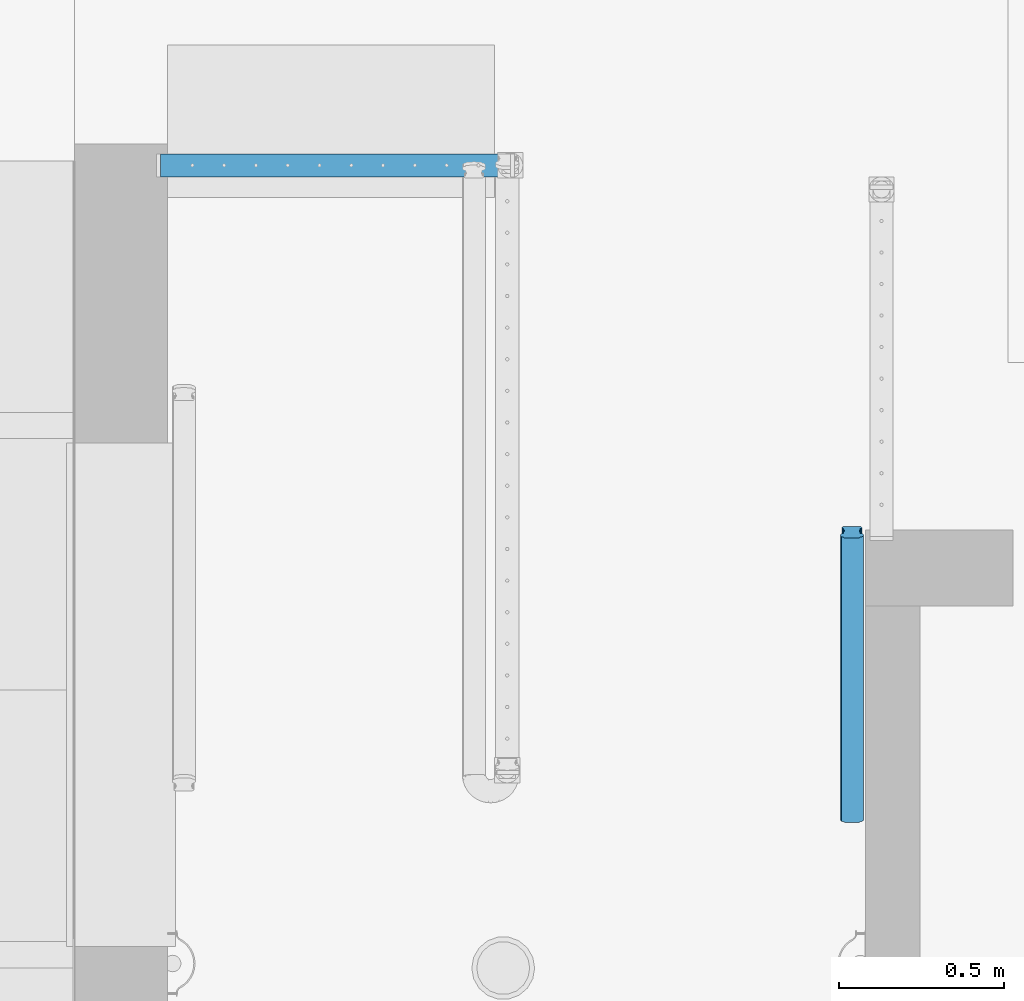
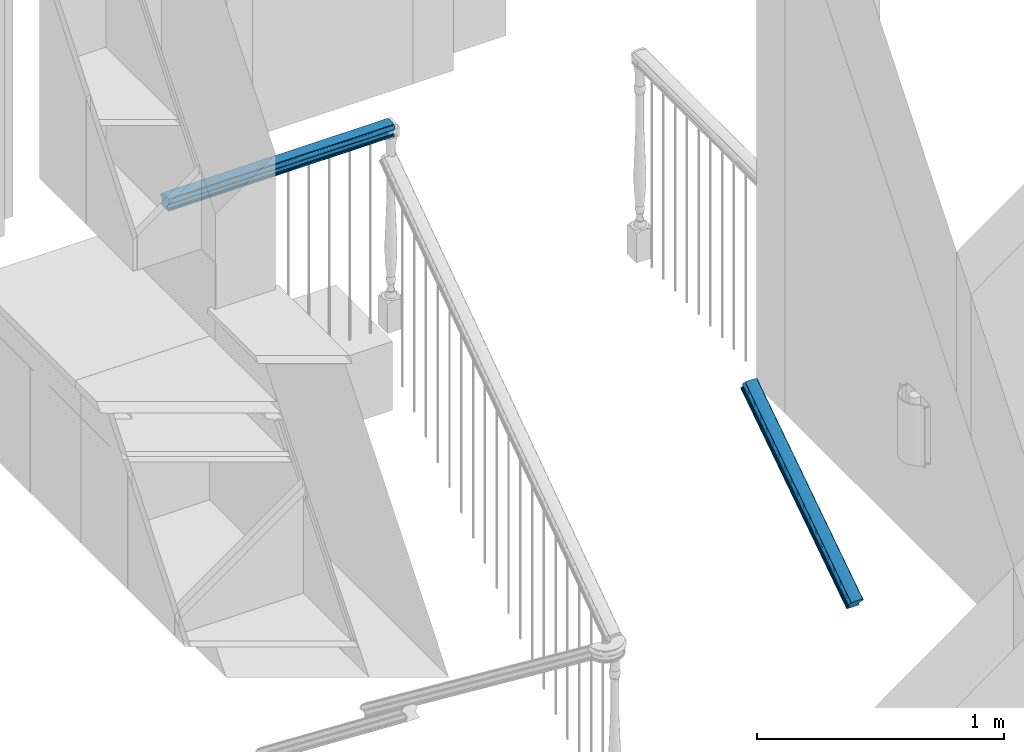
# One storey, part 17 of 77: 2 building element parts, 2 elements without a shape of their own.
"""IFC2X3 building model written with IfcOpenShell, lengths in inches."""

from ifc_helpers import new_model, entity, si_unit, converted_unit, derived_unit, money_unit, direction, frame, origin_with_axes, place, context, subcontext, project, spatial, faceted_brep, material, type_object, element, aggregate, save


model = new_model("IFC2X3")

# Units and contexts
model_context = context("Model", 3, precision=0.000393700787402, world=origin_with_axes(), true_north=direction((0.0, 1.0)))
body_context = subcontext(model_context, "Body", "Model", "MODEL_VIEW")
ifc_project = project(units=[converted_unit("LENGTHUNIT", "INCH", entity("IfcPositiveLengthMeasure", 0.0254), si_unit("LENGTHUNIT", "METRE"), dimensions=[1, 0, 0, 0, 0, 0, 0]), converted_unit("AREAUNIT", "SQUARE_FOOT", entity("IfcPositiveLengthMeasure", 0.09290304), si_unit("AREAUNIT", "SQUARE_METRE"), dimensions=[2, 0, 0, 0, 0, 0, 0]), si_unit("PLANEANGLEUNIT", "RADIAN"), si_unit("SOLIDANGLEUNIT", "STERADIAN"), money_unit("USD"), converted_unit("TIMEUNIT", "Year", entity("IfcTimeMeasure", 31556926.0), si_unit("TIMEUNIT", "SECOND"), dimensions=[0, 0, 1, 0, 0, 0, 0]), si_unit("MASSUNIT", "GRAM", prefix="KILO"), si_unit("THERMODYNAMICTEMPERATUREUNIT", "DEGREE_CELSIUS"), si_unit("LUMINOUSINTENSITYUNIT", "LUMEN"), si_unit("ENERGYUNIT", "JOULE", prefix="MEGA"), derived_unit("THERMALCONDUCTANCEUNIT", [(si_unit("POWERUNIT", "WATT"), 1), (si_unit("LENGTHUNIT", "METRE"), -1), (si_unit("THERMODYNAMICTEMPERATUREUNIT", "KELVIN"), -1)]), derived_unit("SPECIFICHEATCAPACITYUNIT", [(si_unit("ENERGYUNIT", "JOULE"), 1), (si_unit("MASSUNIT", "GRAM", prefix="KILO"), -1), (si_unit("THERMODYNAMICTEMPERATUREUNIT", "KELVIN"), -1)]), derived_unit("MASSDENSITYUNIT", [(si_unit("MASSUNIT", "GRAM", prefix="KILO"), 1), (si_unit("VOLUMEUNIT", "CUBIC_METRE"), -1)])], contexts=[model_context])

# Site, building, storey
site_placement = place(None, origin_with_axes())
site = spatial("IfcSite", under=ifc_project, at=site_placement, Name="Site", CompositionType="ELEMENT")
building_placement = place(site_placement, origin_with_axes())
building = spatial("IfcBuilding", under=site, at=building_placement, Name="Building", CompositionType="ELEMENT")
storey_placement = place(building_placement, frame((0.0, 0.0, 127.952755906), z_axis=(0.0, 0.0, 1.0), x_axis=(1.0, 0.0, 0.0)))
storey = spatial("IfcBuildingStorey", under=building, at=storey_placement, Name="Second Floor", CompositionType="ELEMENT", Elevation=127.953)

# Railing, building element part
railing_type = type_object("IfcRailingType", Name="Railing Type", PredefinedType="NOTDEFINED")
railing_1_placement = place(storey_placement, frame((725.429882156, 31.4071964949, -56.2352941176), z_axis=(0.0, 0.0, 1.0), x_axis=(1.0, 0.0, 0.0)))
railing_1 = element("IfcRailing", 1, at=railing_1_placement, inside=storey, type_object=railing_type, Name="RA-03", PredefinedType="NOTDEFINED")
ifc_material = material(Name="Wood - Structural")
building_element_part_1_placement = place(railing_1_placement, origin_with_axes())
building_element_part_1 = element("IfcBuildingElementPart", 2, at=building_element_part_1_placement, material=ifc_material, Name="Wood - Structural", context=body_context, shape_type="Brep", body=[
    faceted_brep([(0.990196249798, 35.3280757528, 35.8978358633), (0.990196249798, 35.3959402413, 35.7956717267), (0.990196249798, 69.2394927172, 58.2769009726), (0.990196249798, 69.1716282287, 58.3790651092), (0.931648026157, 35.3201929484, 35.9097027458), (0.561840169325, 35.2818595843, 35.9674103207), (0.187756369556, 35.2626196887, 35.9963743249), (-0.187756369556, 35.2626196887, 35.9963743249), (-0.561840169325, 35.2818595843, 35.9674103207), (-0.931648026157, 35.3201929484, 35.9097027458), (-0.990196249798, 35.3280757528, 35.8978358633), (-0.990196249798, 35.3959402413, 35.7956717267), (-1.02373410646, 35.3968010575, 35.7943758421), (-1.08979078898, 35.4036483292, 35.7840678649), (-1.15282134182, 35.4171348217, 35.7637651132), (-1.21091061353, 35.4368507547, 35.7340844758), (-1.26229359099, 35.4621970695, 35.6959277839), (-1.30540902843, 35.4924036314, 35.6504544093), (-1.33894688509, 35.526552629, 35.5990460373), (-1.36188813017, 35.5636064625, 35.5432646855), (-1.37353570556, 35.6024392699, 35.4848052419), (-1.37353570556, 35.6418711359, 35.4254439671), (-1.36188813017, 35.6807039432, 35.3669845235), (-1.33894688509, 35.7177577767, 35.3112031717), (-1.30540902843, 35.7519067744, 35.2597947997), (-1.26229359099, 35.7821133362, 35.2143214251), (-1.21091061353, 35.8074596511, 35.1761647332), (-1.15282134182, 35.8271755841, 35.1464840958), (-1.08979078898, 35.8406620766, 35.1261813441), (-1.02373410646, 35.8475093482, 35.1158733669), (-0.990196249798, 35.8483701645, 35.1145774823), (-0.990196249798, 35.9614776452, 34.9443039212), (-0.967619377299, 35.9788771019, 34.9181105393), (-0.92782619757, 36.0193954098, 34.8571137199), (-0.900606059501, 36.0633603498, 34.7909282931), (-0.886786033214, 36.1094360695, 34.7215652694), (-0.886786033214, 36.1562225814, 34.6511322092), (-0.900606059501, 36.2022983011, 34.5817691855), (-0.92782619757, 36.2462632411, 34.5155837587), (-0.967619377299, 36.286781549, 34.4545869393), (-0.990196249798, 36.3041810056, 34.4283935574), (-0.990196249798, 36.4172884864, 34.2581199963), (-1.00696517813, 36.4177188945, 34.257472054), (-1.03999351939, 36.4211425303, 34.2523180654), (-1.07150879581, 36.4278857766, 34.2421666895), (-1.10055343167, 36.4377437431, 34.2273263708), (-1.12624492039, 36.4504169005, 34.2082480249), (-1.14780263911, 36.4655201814, 34.1855113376), (-1.16457156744, 36.4825946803, 34.1598071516), (-1.17604218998, 36.501121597, 34.1319164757), (-1.18186597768, 36.5205380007, 34.1026867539), (-1.18186597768, 36.5402539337, 34.0730061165), (-1.17604218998, 36.5596703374, 34.0437763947), (-1.16457156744, 36.5781972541, 34.0158857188), (-1.14780263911, 36.5952717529, 33.9901815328), (-1.12624492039, 36.6103750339, 33.9674448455), (-1.10055343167, 36.6230481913, 33.9483664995), (-1.07150879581, 36.6329061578, 33.9335261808), (-1.03999351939, 36.639649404, 33.923374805), (-1.00696517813, 36.6430730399, 33.9182208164), (-0.990196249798, 36.643503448, 33.9175728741), (0.990196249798, 36.643503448, 33.9175728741), (1.00696517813, 36.6430730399, 33.9182208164), (1.03999351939, 36.639649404, 33.923374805), (1.07150879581, 36.6329061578, 33.9335261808), (1.10055343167, 36.6230481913, 33.9483664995), (1.12624492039, 36.6103750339, 33.9674448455), (1.14780263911, 36.5952717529, 33.9901815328), (1.16457156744, 36.5781972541, 34.0158857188), (1.17604218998, 36.5596703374, 34.0437763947), (1.18186597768, 36.5402539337, 34.0730061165), (1.18186597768, 36.5205380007, 34.1026867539), (1.17604218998, 36.501121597, 34.1319164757), (1.16457156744, 36.4825946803, 34.1598071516), (1.14780263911, 36.4655201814, 34.1855113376), (1.12624492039, 36.4504169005, 34.2082480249), (1.10055343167, 36.4377437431, 34.2273263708), (1.07150879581, 36.4278857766, 34.2421666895), (1.03999351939, 36.4211425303, 34.2523180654), (1.00696517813, 36.4177188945, 34.257472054), (0.990196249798, 36.4172884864, 34.2581199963), (0.990196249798, 36.3041810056, 34.4283935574), (0.967619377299, 36.286781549, 34.4545869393), (0.92782619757, 36.2462632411, 34.5155837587), (0.900606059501, 36.2022983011, 34.5817691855), (0.886786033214, 36.1562225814, 34.6511322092), (0.886786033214, 36.1094360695, 34.7215652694), (0.900606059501, 36.0633603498, 34.7909282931), (0.92782619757, 36.0193954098, 34.8571137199), (0.967619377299, 35.9788771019, 34.9181105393), (0.990196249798, 35.9614776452, 34.9443039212), (0.990196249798, 35.8483701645, 35.1145774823), (1.02373410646, 35.8475093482, 35.1158733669), (1.08979078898, 35.8406620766, 35.1261813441), (1.15282134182, 35.8271755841, 35.1464840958), (1.21091061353, 35.8074596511, 35.1761647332), (1.26229359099, 35.7821133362, 35.2143214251), (1.30540902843, 35.7519067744, 35.2597947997), (1.33894688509, 35.7177577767, 35.3112031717), (1.36188813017, 35.6807039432, 35.3669845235), (1.37353570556, 35.6418711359, 35.4254439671), (1.37353570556, 35.6024392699, 35.4848052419), (1.36188813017, 35.5636064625, 35.5432646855), (1.33894688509, 35.526552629, 35.5990460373), (1.30540902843, 35.4924036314, 35.6504544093), (1.26229359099, 35.4621970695, 35.6959277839), (1.21091061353, 35.4368507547, 35.7340844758), (1.15282134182, 35.4171348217, 35.7637651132), (1.08979078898, 35.4036483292, 35.7840678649), (1.02373410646, 35.3968010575, 35.7943758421), (1.02373410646, 69.2403535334, 58.2756050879), (1.08979078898, 69.2472008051, 58.2652971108), (1.15282134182, 69.2606872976, 58.2449943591), (1.21091061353, 69.2804032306, 58.2153137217), (1.26229359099, 69.3057495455, 58.1771570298), (1.30540902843, 69.3359561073, 58.1316836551), (1.33894688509, 69.370105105, 58.0802752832), (1.36188813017, 69.4071589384, 58.0244939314), (1.37353570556, 69.4459917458, 57.9660344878), (1.37353570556, 69.4854236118, 57.906673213), (1.36188813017, 69.5242564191, 57.8482137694), (1.33894688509, 69.5613102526, 57.7924324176), (1.30540902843, 69.5954592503, 57.7410240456), (1.26229359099, 69.6256658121, 57.695550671), (1.21091061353, 69.651012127, 57.6573939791), (1.15282134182, 69.67072806, 57.6277133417), (1.08979078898, 69.6842145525, 57.60741059), (1.02373410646, 69.6910618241, 57.5971026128), (0.990196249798, 69.6919226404, 57.5958067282), (0.990196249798, 69.8050301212, 57.4255331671), (0.967619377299, 69.8224295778, 57.3993397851), (0.92782619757, 69.8629478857, 57.3383429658), (0.900606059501, 69.9069128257, 57.2721575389), (0.886786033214, 69.9529885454, 57.2027945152), (0.886786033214, 69.9997750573, 57.1323614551), (0.900606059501, 70.045850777, 57.0629984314), (0.92782619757, 70.089815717, 56.9968130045), (0.967619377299, 70.1303340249, 56.9358161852), (0.990196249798, 70.1477334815, 56.9096228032), (0.990196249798, 70.2608409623, 56.7393492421), (1.00696517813, 70.2612713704, 56.7387012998), (1.03999351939, 70.2646950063, 56.7335473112), (1.07150879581, 70.2714382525, 56.7233959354), (1.10055343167, 70.281296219, 56.7085556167), (1.12624492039, 70.2939693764, 56.6894772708), (1.14780263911, 70.3090726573, 56.6667405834), (1.16457156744, 70.3261471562, 56.6410363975), (1.17604218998, 70.3446740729, 56.6131457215), (1.18186597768, 70.3640904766, 56.5839159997), (1.18186597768, 70.3838064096, 56.5542353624), (1.17604218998, 70.4032228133, 56.5250056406), (1.16457156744, 70.42174973, 56.4971149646), (1.14780263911, 70.4388242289, 56.4714107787), (1.12624492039, 70.4539275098, 56.4486740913), (1.10055343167, 70.4666006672, 56.4295957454), (1.07150879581, 70.4764586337, 56.4147554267), (1.03999351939, 70.4832018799, 56.4046040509), (1.00696517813, 70.4866255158, 56.3994500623), (0.990196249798, 70.4870559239, 56.39880212), (-0.990196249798, 70.4870559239, 56.39880212), (-1.00696517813, 70.4866255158, 56.3994500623), (-1.03999351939, 70.4832018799, 56.4046040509), (-1.07150879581, 70.4764586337, 56.4147554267), (-1.10055343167, 70.4666006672, 56.4295957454), (-1.12624492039, 70.4539275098, 56.4486740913), (-1.14780263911, 70.4388242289, 56.4714107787), (-1.16457156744, 70.42174973, 56.4971149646), (-1.17604218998, 70.4032228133, 56.5250056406), (-1.18186597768, 70.3838064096, 56.5542353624), (-1.18186597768, 70.3640904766, 56.5839159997), (-1.17604218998, 70.3446740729, 56.6131457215), (-1.16457156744, 70.3261471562, 56.6410363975), (-1.14780263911, 70.3090726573, 56.6667405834), (-1.12624492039, 70.2939693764, 56.6894772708), (-1.10055343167, 70.281296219, 56.7085556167), (-1.07150879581, 70.2714382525, 56.7233959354), (-1.03999351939, 70.2646950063, 56.7335473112), (-1.00696517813, 70.2612713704, 56.7387012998), (-0.990196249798, 70.2608409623, 56.7393492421), (-0.990196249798, 70.1477334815, 56.9096228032), (-0.967619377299, 70.1303340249, 56.9358161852), (-0.92782619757, 70.089815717, 56.9968130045), (-0.900606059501, 70.045850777, 57.0629984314), (-0.886786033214, 69.9997750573, 57.1323614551), (-0.886786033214, 69.9529885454, 57.2027945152), (-0.900606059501, 69.9069128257, 57.2721575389), (-0.92782619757, 69.8629478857, 57.3383429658), (-0.967619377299, 69.8224295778, 57.3993397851), (-0.990196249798, 69.8050301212, 57.4255331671), (-0.990196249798, 69.6919226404, 57.5958067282), (-1.02373410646, 69.6910618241, 57.5971026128), (-1.08979078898, 69.6842145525, 57.60741059), (-1.15282134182, 69.67072806, 57.6277133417), (-1.21091061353, 69.651012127, 57.6573939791), (-1.26229359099, 69.6256658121, 57.695550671), (-1.30540902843, 69.5954592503, 57.7410240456), (-1.33894688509, 69.5613102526, 57.7924324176), (-1.36188813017, 69.5242564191, 57.8482137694), (-1.37353570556, 69.4854236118, 57.906673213), (-1.37353570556, 69.4459917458, 57.9660344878), (-1.36188813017, 69.4071589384, 58.0244939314), (-1.33894688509, 69.370105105, 58.0802752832), (-1.30540902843, 69.3359561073, 58.1316836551), (-1.26229359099, 69.3057495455, 58.1771570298), (-1.21091061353, 69.2804032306, 58.2153137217), (-1.15282134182, 69.2606872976, 58.2449943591), (-1.08979078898, 69.2472008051, 58.2652971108), (-1.02373410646, 69.2403535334, 58.2756050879), (-0.990196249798, 69.2394927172, 58.2769009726), (-0.990196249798, 69.1716282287, 58.3790651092), (-0.931648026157, 69.1637454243, 58.3909319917), (-0.561840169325, 69.1254120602, 58.4486395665), (-0.187756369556, 69.1061721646, 58.4776035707), (0.187756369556, 69.1061721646, 58.4776035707), (0.561840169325, 69.1254120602, 58.4486395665), (0.931648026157, 69.1637454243, 58.3909319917)], [[[0, 1, 2, 3]], [[0, 4, 5, 6, 7, 8, 9, 10, 11, 12, 13, 14, 15, 16, 17, 18, 19, 20, 21, 22, 23, 24, 25, 26, 27, 28, 29, 30, 31, 32, 33, 34, 35, 36, 37, 38, 39, 40, 41, 42, 43, 44, 45, 46, 47, 48, 49, 50, 51, 52, 53, 54, 55, 56, 57, 58, 59, 60, 61, 62, 63, 64, 65, 66, 67, 68, 69, 70, 71, 72, 73, 74, 75, 76, 77, 78, 79, 80, 81, 82, 83, 84, 85, 86, 87, 88, 89, 90, 91, 92, 93, 94, 95, 96, 97, 98, 99, 100, 101, 102, 103, 104, 105, 106, 107, 108, 109, 1]], [[1, 109, 110, 2]], [[3, 2, 110, 111, 112, 113, 114, 115, 116, 117, 118, 119, 120, 121, 122, 123, 124, 125, 126, 127, 128, 129, 130, 131, 132, 133, 134, 135, 136, 137, 138, 139, 140, 141, 142, 143, 144, 145, 146, 147, 148, 149, 150, 151, 152, 153, 154, 155, 156, 157, 158, 159, 160, 161, 162, 163, 164, 165, 166, 167, 168, 169, 170, 171, 172, 173, 174, 175, 176, 177, 178, 179, 180, 181, 182, 183, 184, 185, 186, 187, 188, 189, 190, 191, 192, 193, 194, 195, 196, 197, 198, 199, 200, 201, 202, 203, 204, 205, 206, 207, 208, 209, 210, 211, 212, 213, 214, 215]], [[4, 0, 3, 215]], [[5, 4, 215, 214]], [[6, 5, 214, 213]], [[7, 6, 213, 212]], [[8, 7, 212, 211]], [[9, 8, 211, 210]], [[10, 9, 210, 209]], [[11, 10, 209, 208]], [[12, 11, 208, 207]], [[13, 12, 207, 206]], [[14, 13, 206, 205]], [[15, 14, 205, 204]], [[16, 15, 204, 203]], [[17, 16, 203, 202]], [[18, 17, 202, 201]], [[19, 18, 201, 200]], [[20, 19, 200, 199]], [[21, 20, 199, 198]], [[22, 21, 198, 197]], [[23, 22, 197, 196]], [[24, 23, 196, 195]], [[25, 24, 195, 194]], [[26, 25, 194, 193]], [[27, 26, 193, 192]], [[28, 27, 192, 191]], [[29, 28, 191, 190]], [[30, 29, 190, 189]], [[31, 30, 189, 188]], [[32, 31, 188, 187]], [[33, 32, 187, 186]], [[34, 33, 186, 185]], [[35, 34, 185, 184]], [[36, 35, 184, 183]], [[37, 36, 183, 182]], [[38, 37, 182, 181]], [[39, 38, 181, 180]], [[40, 39, 180, 179]], [[41, 40, 179, 178]], [[42, 41, 178, 177]], [[43, 42, 177, 176]], [[44, 43, 176, 175]], [[45, 44, 175, 174]], [[46, 45, 174, 173]], [[47, 46, 173, 172]], [[48, 47, 172, 171]], [[49, 48, 171, 170]], [[50, 49, 170, 169]], [[51, 50, 169, 168]], [[52, 51, 168, 167]], [[53, 52, 167, 166]], [[54, 53, 166, 165]], [[55, 54, 165, 164]], [[56, 55, 164, 163]], [[57, 56, 163, 162]], [[58, 57, 162, 161]], [[59, 58, 161, 160]], [[60, 59, 160, 159]], [[61, 60, 159, 158]], [[62, 61, 158, 157]], [[63, 62, 157, 156]], [[64, 63, 156, 155]], [[65, 64, 155, 154]], [[66, 65, 154, 153]], [[67, 66, 153, 152]], [[68, 67, 152, 151]], [[69, 68, 151, 150]], [[70, 69, 150, 149]], [[71, 70, 149, 148]], [[72, 71, 148, 147]], [[73, 72, 147, 146]], [[74, 73, 146, 145]], [[75, 74, 145, 144]], [[76, 75, 144, 143]], [[77, 76, 143, 142]], [[78, 77, 142, 141]], [[79, 78, 141, 140]], [[80, 79, 140, 139]], [[81, 80, 139, 138]], [[82, 81, 138, 137]], [[83, 82, 137, 136]], [[84, 83, 136, 135]], [[85, 84, 135, 134]], [[86, 85, 134, 133]], [[87, 86, 133, 132]], [[88, 87, 132, 131]], [[89, 88, 131, 130]], [[90, 89, 130, 129]], [[91, 90, 129, 128]], [[92, 91, 128, 127]], [[93, 92, 127, 126]], [[94, 93, 126, 125]], [[95, 94, 125, 124]], [[96, 95, 124, 123]], [[97, 96, 123, 122]], [[98, 97, 122, 121]], [[99, 98, 121, 120]], [[100, 99, 120, 119]], [[101, 100, 119, 118]], [[102, 101, 118, 117]], [[103, 102, 117, 116]], [[104, 103, 116, 115]], [[105, 104, 115, 114]], [[106, 105, 114, 113]], [[107, 106, 113, 112]], [[108, 107, 112, 111]], [[109, 108, 111, 110]]]),
])
aggregate(railing_1, [building_element_part_1])

railing_2_placement = place(storey_placement, frame((643.187139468, 142.90717231, 0.0), z_axis=(0.0, 0.0, 1.0), x_axis=(0.0, 1.0, 0.0)))
railing_2 = element("IfcRailing", 3, at=railing_2_placement, inside=storey, type_object=railing_type, Name="RAILING - 001", PredefinedType="NOTDEFINED")
building_element_part_2_placement = place(railing_2_placement, origin_with_axes())
building_element_part_2 = element("IfcBuildingElementPart", 4, at=building_element_part_2_placement, material=ifc_material, Name="Wood - Structural", context=body_context, shape_type="Brep", body=[
    faceted_brep([(0.97830768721, 0.0, 39.8773496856), (0.97830768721, 0.0, 39.7546993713), (0.978307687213, -41.6002269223, 39.7546993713), (0.978307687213, -41.6002269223, 39.8773496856), (1.03685591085, 0.0, 39.8915961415), (1.40666376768, 0.0, 39.9608753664), (1.78074756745, 0.0, 39.9956472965), (2.15626030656, 0.0, 39.9956472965), (2.53034410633, 0.0, 39.9608753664), (2.90015196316, 0.0, 39.8915961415), (2.95870018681, 0.0, 39.8773496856), (2.95870018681, 0.0, 39.7546993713), (2.99223804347, 0.0, 39.753143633), (3.05829472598, 0.0, 39.7407686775), (3.12132527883, 0.0, 39.7163947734), (3.17941455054, 0.0, 39.6807625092), (3.230797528, 0.0, 39.6349545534), (3.27391296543, 0.0, 39.5803627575), (3.30745082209, 0.0, 39.5186458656), (3.33039206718, 0.0, 39.4516791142), (3.34203964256, 0.0, 39.3814972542), (3.34203964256, 0.0, 39.3102327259), (3.33039206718, 0.0, 39.2400508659), (3.30745082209, 0.0, 39.1730841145), (3.27391296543, 0.0, 39.1113672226), (3.230797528, 0.0, 39.0567754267), (3.17941455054, 0.0, 39.0109674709), (3.12132527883, 0.0, 38.9753352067), (3.05829472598, 0.0, 38.9509613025), (2.99223804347, 0.0, 38.9385863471), (2.95870018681, 0.0, 38.9370306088), (2.95870018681, 0.0, 38.7326134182), (2.93612331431, 0.0, 38.7011676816), (2.89633013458, 0.0, 38.6279396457), (2.86910999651, 0.0, 38.5484825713), (2.85528997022, 0.0, 38.4652107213), (2.85528997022, 0.0, 38.3806542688), (2.86910999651, 0.0, 38.2973824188), (2.89633013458, 0.0, 38.2179253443), (2.93612331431, 0.0, 38.1446973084), (2.95870018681, 0.0, 38.1132515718), (2.95870018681, 0.0, 37.9088343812), (2.97546911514, 0.0, 37.9080565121), (3.0084974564, 0.0, 37.9018690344), (3.04001273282, 0.0, 37.8896820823), (3.06905736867, 0.0, 37.8718659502), (3.0947488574, 0.0, 37.8489619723), (3.11630657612, 0.0, 37.8216660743), (3.13307550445, 0.0, 37.7908076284), (3.14454612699, 0.0, 37.7573242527), (3.15036991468, 0.0, 37.7222333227), (3.15036991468, 0.0, 37.6866010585), (3.14454612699, 0.0, 37.6515101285), (3.13307550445, 0.0, 37.6180267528), (3.11630657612, 0.0, 37.5871683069), (3.0947488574, 0.0, 37.5598724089), (3.06905736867, 0.0, 37.536968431), (3.04001273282, 0.0, 37.519152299), (3.0084974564, 0.0, 37.5069653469), (2.97546911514, 0.0, 37.5007778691), (2.95870018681, 0.0, 37.5), (0.97830768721, 0.0, 37.5), (0.96153875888, 0.0, 37.5007778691), (0.928510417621, 0.0, 37.5069653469), (0.896995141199, 0.0, 37.519152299), (0.867950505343, 0.0, 37.536968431), (0.842259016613, 0.0, 37.5598724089), (0.820701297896, 0.0, 37.5871683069), (0.803932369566, 0.0, 37.6180267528), (0.792461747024, 0.0, 37.6515101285), (0.786637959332, 0.0, 37.6866010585), (0.786637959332, 0.0, 37.7222333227), (0.792461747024, 0.0, 37.7573242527), (0.803932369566, 0.0, 37.7908076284), (0.820701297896, 0.0, 37.8216660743), (0.842259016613, 0.0, 37.8489619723), (0.867950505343, 0.0, 37.8718659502), (0.896995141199, 0.0, 37.8896820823), (0.928510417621, 0.0, 37.9018690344), (0.96153875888, 0.0, 37.9080565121), (0.97830768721, 0.0, 37.9088343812), (0.97830768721, 0.0, 38.1132515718), (1.00088455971, 0.0, 38.1446973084), (1.04067773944, 0.0, 38.2179253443), (1.06789787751, 0.0, 38.2973824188), (1.08171790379, 0.0, 38.3806542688), (1.08171790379, 0.0, 38.4652107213), (1.06789787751, 0.0, 38.5484825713), (1.04067773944, 0.0, 38.6279396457), (1.00088455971, 0.0, 38.7011676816), (0.97830768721, 0.0, 38.7326134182), (0.97830768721, 0.0, 38.9370306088), (0.944769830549, 0.0, 38.9385863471), (0.878713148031, 0.0, 38.9509613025), (0.815682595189, 0.0, 38.9753352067), (0.757593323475, 0.0, 39.0109674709), (0.706210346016, 0.0, 39.0567754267), (0.663094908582, 0.0, 39.1113672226), (0.629557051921, 0.0, 39.1730841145), (0.606615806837, 0.0, 39.2400508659), (0.594968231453, 0.0, 39.3102327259), (0.594968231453, 0.0, 39.3814972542), (0.606615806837, 0.0, 39.4516791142), (0.629557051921, 0.0, 39.5186458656), (0.663094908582, 0.0, 39.5803627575), (0.706210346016, 0.0, 39.6349545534), (0.757593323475, 0.0, 39.6807625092), (0.815682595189, 0.0, 39.7163947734), (0.878713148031, 0.0, 39.7407686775), (0.944769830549, 0.0, 39.753143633), (0.944769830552, -41.6002269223, 39.753143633), (0.878713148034, -41.6002269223, 39.7407686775), (0.815682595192, -41.6002269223, 39.7163947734), (0.757593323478, -41.6002269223, 39.6807625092), (0.706210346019, -41.6002269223, 39.6349545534), (0.663094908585, -41.6002269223, 39.5803627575), (0.629557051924, -41.6002269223, 39.5186458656), (0.60661580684, -41.6002269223, 39.4516791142), (0.594968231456, -41.6002269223, 39.3814972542), (0.594968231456, -41.6002269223, 39.3102327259), (0.60661580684, -41.6002269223, 39.2400508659), (0.629557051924, -41.6002269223, 39.1730841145), (0.663094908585, -41.6002269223, 39.1113672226), (0.706210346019, -41.6002269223, 39.0567754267), (0.757593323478, -41.6002269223, 39.0109674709), (0.815682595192, -41.6002269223, 38.9753352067), (0.878713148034, -41.6002269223, 38.9509613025), (0.944769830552, -41.6002269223, 38.9385863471), (0.978307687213, -41.6002269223, 38.9370306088), (0.978307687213, -41.6002269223, 38.7326134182), (1.00088455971, -41.6002269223, 38.7011676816), (1.04067773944, -41.6002269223, 38.6279396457), (1.06789787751, -41.6002269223, 38.5484825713), (1.0817179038, -41.6002269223, 38.4652107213), (1.0817179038, -41.6002269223, 38.3806542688), (1.06789787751, -41.6002269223, 38.2973824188), (1.04067773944, -41.6002269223, 38.2179253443), (1.00088455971, -41.6002269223, 38.1446973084), (0.978307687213, -41.6002269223, 38.1132515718), (0.978307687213, -41.6002269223, 37.9088343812), (0.961538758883, -41.6002269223, 37.9080565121), (0.928510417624, -41.6002269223, 37.9018690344), (0.896995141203, -41.6002269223, 37.8896820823), (0.867950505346, -41.6002269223, 37.8718659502), (0.842259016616, -41.6002269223, 37.8489619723), (0.820701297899, -41.6002269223, 37.8216660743), (0.803932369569, -41.6002269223, 37.7908076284), (0.792461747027, -41.6002269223, 37.7573242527), (0.786637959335, -41.6002269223, 37.7222333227), (0.786637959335, -41.6002269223, 37.6866010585), (0.792461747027, -41.6002269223, 37.6515101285), (0.803932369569, -41.6002269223, 37.6180267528), (0.820701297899, -41.6002269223, 37.5871683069), (0.842259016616, -41.6002269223, 37.5598724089), (0.867950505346, -41.6002269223, 37.536968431), (0.896995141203, -41.6002269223, 37.519152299), (0.928510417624, -41.6002269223, 37.5069653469), (0.961538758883, -41.6002269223, 37.5007778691), (0.978307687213, -41.6002269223, 37.5), (2.95870018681, -41.6002269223, 37.5), (2.97546911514, -41.6002269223, 37.5007778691), (3.0084974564, -41.6002269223, 37.5069653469), (3.04001273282, -41.6002269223, 37.519152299), (3.06905736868, -41.6002269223, 37.536968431), (3.09474885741, -41.6002269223, 37.5598724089), (3.11630657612, -41.6002269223, 37.5871683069), (3.13307550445, -41.6002269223, 37.6180267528), (3.144546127, -41.6002269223, 37.6515101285), (3.15036991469, -41.6002269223, 37.6866010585), (3.15036991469, -41.6002269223, 37.7222333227), (3.144546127, -41.6002269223, 37.7573242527), (3.13307550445, -41.6002269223, 37.7908076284), (3.11630657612, -41.6002269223, 37.8216660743), (3.09474885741, -41.6002269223, 37.8489619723), (3.06905736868, -41.6002269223, 37.8718659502), (3.04001273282, -41.6002269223, 37.8896820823), (3.0084974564, -41.6002269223, 37.9018690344), (2.97546911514, -41.6002269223, 37.9080565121), (2.95870018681, -41.6002269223, 37.9088343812), (2.95870018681, -41.6002269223, 38.1132515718), (2.93612331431, -41.6002269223, 38.1446973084), (2.89633013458, -41.6002269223, 38.2179253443), (2.86910999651, -41.6002269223, 38.2973824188), (2.85528997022, -41.6002269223, 38.3806542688), (2.85528997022, -41.6002269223, 38.4652107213), (2.86910999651, -41.6002269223, 38.5484825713), (2.89633013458, -41.6002269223, 38.6279396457), (2.93612331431, -41.6002269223, 38.7011676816), (2.95870018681, -41.6002269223, 38.7326134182), (2.95870018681, -41.6002269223, 38.9370306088), (2.99223804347, -41.6002269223, 38.9385863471), (3.05829472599, -41.6002269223, 38.9509613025), (3.12132527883, -41.6002269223, 38.9753352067), (3.17941455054, -41.6002269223, 39.0109674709), (3.230797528, -41.6002269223, 39.0567754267), (3.27391296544, -41.6002269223, 39.1113672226), (3.3074508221, -41.6002269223, 39.1730841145), (3.33039206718, -41.6002269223, 39.2400508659), (3.34203964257, -41.6002269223, 39.3102327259), (3.34203964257, -41.6002269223, 39.3814972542), (3.33039206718, -41.6002269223, 39.4516791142), (3.3074508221, -41.6002269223, 39.5186458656), (3.27391296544, -41.6002269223, 39.5803627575), (3.230797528, -41.6002269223, 39.6349545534), (3.17941455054, -41.6002269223, 39.6807625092), (3.12132527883, -41.6002269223, 39.7163947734), (3.05829472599, -41.6002269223, 39.7407686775), (2.99223804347, -41.6002269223, 39.753143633), (2.95870018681, -41.6002269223, 39.7546993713), (2.95870018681, -41.6002269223, 39.8773496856), (2.90015196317, -41.6002269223, 39.8915961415), (2.53034410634, -41.6002269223, 39.9608753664), (2.15626030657, -41.6002269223, 39.9956472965), (1.78074756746, -41.6002269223, 39.9956472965), (1.40666376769, -41.6002269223, 39.9608753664), (1.03685591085, -41.6002269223, 39.8915961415)], [[[0, 1, 2, 3]], [[0, 4, 5, 6, 7, 8, 9, 10, 11, 12, 13, 14, 15, 16, 17, 18, 19, 20, 21, 22, 23, 24, 25, 26, 27, 28, 29, 30, 31, 32, 33, 34, 35, 36, 37, 38, 39, 40, 41, 42, 43, 44, 45, 46, 47, 48, 49, 50, 51, 52, 53, 54, 55, 56, 57, 58, 59, 60, 61, 62, 63, 64, 65, 66, 67, 68, 69, 70, 71, 72, 73, 74, 75, 76, 77, 78, 79, 80, 81, 82, 83, 84, 85, 86, 87, 88, 89, 90, 91, 92, 93, 94, 95, 96, 97, 98, 99, 100, 101, 102, 103, 104, 105, 106, 107, 108, 109, 1]], [[1, 109, 110, 2]], [[3, 2, 110, 111, 112, 113, 114, 115, 116, 117, 118, 119, 120, 121, 122, 123, 124, 125, 126, 127, 128, 129, 130, 131, 132, 133, 134, 135, 136, 137, 138, 139, 140, 141, 142, 143, 144, 145, 146, 147, 148, 149, 150, 151, 152, 153, 154, 155, 156, 157, 158, 159, 160, 161, 162, 163, 164, 165, 166, 167, 168, 169, 170, 171, 172, 173, 174, 175, 176, 177, 178, 179, 180, 181, 182, 183, 184, 185, 186, 187, 188, 189, 190, 191, 192, 193, 194, 195, 196, 197, 198, 199, 200, 201, 202, 203, 204, 205, 206, 207, 208, 209, 210, 211, 212, 213, 214, 215]], [[4, 0, 3, 215]], [[5, 4, 215, 214]], [[6, 5, 214, 213]], [[7, 6, 213, 212]], [[8, 7, 212, 211]], [[9, 8, 211, 210]], [[10, 9, 210, 209]], [[11, 10, 209, 208]], [[12, 11, 208, 207]], [[13, 12, 207, 206]], [[14, 13, 206, 205]], [[15, 14, 205, 204]], [[16, 15, 204, 203]], [[17, 16, 203, 202]], [[18, 17, 202, 201]], [[19, 18, 201, 200]], [[20, 19, 200, 199]], [[21, 20, 199, 198]], [[22, 21, 198, 197]], [[23, 22, 197, 196]], [[24, 23, 196, 195]], [[25, 24, 195, 194]], [[26, 25, 194, 193]], [[27, 26, 193, 192]], [[28, 27, 192, 191]], [[29, 28, 191, 190]], [[30, 29, 190, 189]], [[31, 30, 189, 188]], [[32, 31, 188, 187]], [[33, 32, 187, 186]], [[34, 33, 186, 185]], [[35, 34, 185, 184]], [[36, 35, 184, 183]], [[37, 36, 183, 182]], [[38, 37, 182, 181]], [[39, 38, 181, 180]], [[40, 39, 180, 179]], [[41, 40, 179, 178]], [[42, 41, 178, 177]], [[43, 42, 177, 176]], [[44, 43, 176, 175]], [[45, 44, 175, 174]], [[46, 45, 174, 173]], [[47, 46, 173, 172]], [[48, 47, 172, 171]], [[49, 48, 171, 170]], [[50, 49, 170, 169]], [[51, 50, 169, 168]], [[52, 51, 168, 167]], [[53, 52, 167, 166]], [[54, 53, 166, 165]], [[55, 54, 165, 164]], [[56, 55, 164, 163]], [[57, 56, 163, 162]], [[58, 57, 162, 161]], [[59, 58, 161, 160]], [[60, 59, 160, 159]], [[61, 60, 159, 158]], [[62, 61, 158, 157]], [[63, 62, 157, 156]], [[64, 63, 156, 155]], [[65, 64, 155, 154]], [[66, 65, 154, 153]], [[67, 66, 153, 152]], [[68, 67, 152, 151]], [[69, 68, 151, 150]], [[70, 69, 150, 149]], [[71, 70, 149, 148]], [[72, 71, 148, 147]], [[73, 72, 147, 146]], [[74, 73, 146, 145]], [[75, 74, 145, 144]], [[76, 75, 144, 143]], [[77, 76, 143, 142]], [[78, 77, 142, 141]], [[79, 78, 141, 140]], [[80, 79, 140, 139]], [[81, 80, 139, 138]], [[82, 81, 138, 137]], [[83, 82, 137, 136]], [[84, 83, 136, 135]], [[85, 84, 135, 134]], [[86, 85, 134, 133]], [[87, 86, 133, 132]], [[88, 87, 132, 131]], [[89, 88, 131, 130]], [[90, 89, 130, 129]], [[91, 90, 129, 128]], [[92, 91, 128, 127]], [[93, 92, 127, 126]], [[94, 93, 126, 125]], [[95, 94, 125, 124]], [[96, 95, 124, 123]], [[97, 96, 123, 122]], [[98, 97, 122, 121]], [[99, 98, 121, 120]], [[100, 99, 120, 119]], [[101, 100, 119, 118]], [[102, 101, 118, 117]], [[103, 102, 117, 116]], [[104, 103, 116, 115]], [[105, 104, 115, 114]], [[106, 105, 114, 113]], [[107, 106, 113, 112]], [[108, 107, 112, 111]], [[109, 108, 111, 110]]]),
])
aggregate(railing_2, [building_element_part_2])

save(model, "model.ifc")
